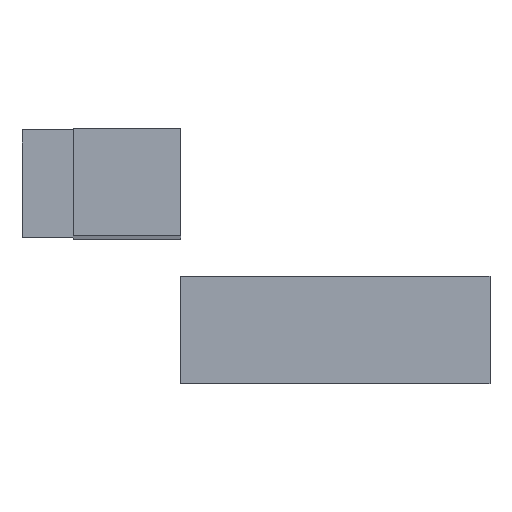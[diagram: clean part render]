
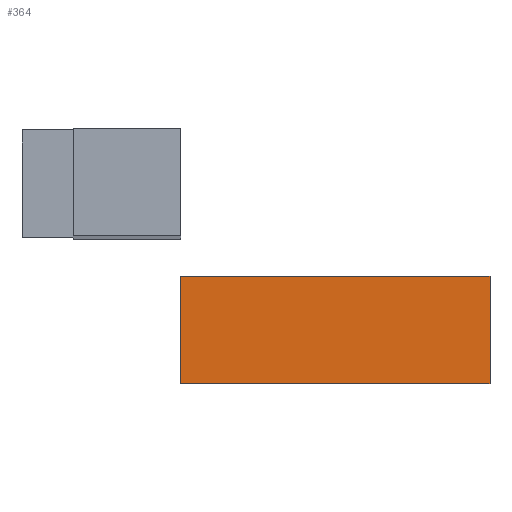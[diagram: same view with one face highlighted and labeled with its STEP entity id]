
A CAD part, top view. The second image highlights one B-rep face of the part: STEP entity #364.
In plain terms, the highlighted planar face has unit normal (0, 0, 1).
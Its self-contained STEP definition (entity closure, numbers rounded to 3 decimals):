
#50 = VERTEX_POINT('',#51);
#51 = CARTESIAN_POINT('',(-5.75,-2.,2.));
#58 = PLANE('',#59);
#59 = AXIS2_PLACEMENT_3D('',#60,#61,#62);
#60 = CARTESIAN_POINT('',(-5.75,-2.,-2.));
#61 = DIRECTION('',(1.,0.,-0.));
#62 = DIRECTION('',(0.,0.,1.));
#70 = PLANE('',#71);
#71 = AXIS2_PLACEMENT_3D('',#72,#73,#74);
#72 = CARTESIAN_POINT('',(-5.75,-2.,-2.));
#73 = DIRECTION('',(-0.,1.,0.));
#74 = DIRECTION('',(0.,0.,1.));
#111 = VERTEX_POINT('',#112);
#112 = CARTESIAN_POINT('',(-5.75,2.,2.));
#126 = PLANE('',#127);
#127 = AXIS2_PLACEMENT_3D('',#128,#129,#130);
#128 = CARTESIAN_POINT('',(-5.75,2.,-2.));
#129 = DIRECTION('',(-0.,1.,0.));
#130 = DIRECTION('',(0.,0.,1.));
#138 = EDGE_CURVE('',#50,#111,#139,.T.);
#139 = SURFACE_CURVE('',#140,(#144,#151),.PCURVE_S1.);
#140 = LINE('',#141,#142);
#141 = CARTESIAN_POINT('',(-5.75,-2.,2.));
#142 = VECTOR('',#143,1.);
#143 = DIRECTION('',(-0.,1.,0.));
#144 = PCURVE('',#58,#145);
#145 = DEFINITIONAL_REPRESENTATION('',(#146),#150);
#146 = LINE('',#147,#148);
#147 = CARTESIAN_POINT('',(4.,0.));
#148 = VECTOR('',#149,1.);
#149 = DIRECTION('',(0.,-1.));
#150 = ( GEOMETRIC_REPRESENTATION_CONTEXT(2) 
PARAMETRIC_REPRESENTATION_CONTEXT() REPRESENTATION_CONTEXT('2D SPACE',''
  ) );
#151 = PCURVE('',#152,#157);
#152 = PLANE('',#153);
#153 = AXIS2_PLACEMENT_3D('',#154,#155,#156);
#154 = CARTESIAN_POINT('',(-5.75,-2.,2.));
#155 = DIRECTION('',(0.,0.,1.));
#156 = DIRECTION('',(1.,0.,-0.));
#157 = DEFINITIONAL_REPRESENTATION('',(#158),#162);
#158 = LINE('',#159,#160);
#159 = CARTESIAN_POINT('',(0.,0.));
#160 = VECTOR('',#161,1.);
#161 = DIRECTION('',(0.,1.));
#162 = ( GEOMETRIC_REPRESENTATION_CONTEXT(2) 
PARAMETRIC_REPRESENTATION_CONTEXT() REPRESENTATION_CONTEXT('2D SPACE',''
  ) );
#170 = VERTEX_POINT('',#171);
#171 = CARTESIAN_POINT('',(5.75,-2.,2.));
#178 = PLANE('',#179);
#179 = AXIS2_PLACEMENT_3D('',#180,#181,#182);
#180 = CARTESIAN_POINT('',(5.75,-2.,-2.));
#181 = DIRECTION('',(1.,0.,-0.));
#182 = DIRECTION('',(0.,0.,1.));
#221 = VERTEX_POINT('',#222);
#222 = CARTESIAN_POINT('',(5.75,2.,2.));
#243 = EDGE_CURVE('',#170,#221,#244,.T.);
#244 = SURFACE_CURVE('',#245,(#249,#256),.PCURVE_S1.);
#245 = LINE('',#246,#247);
#246 = CARTESIAN_POINT('',(5.75,-2.,2.));
#247 = VECTOR('',#248,1.);
#248 = DIRECTION('',(-0.,1.,0.));
#249 = PCURVE('',#178,#250);
#250 = DEFINITIONAL_REPRESENTATION('',(#251),#255);
#251 = LINE('',#252,#253);
#252 = CARTESIAN_POINT('',(4.,0.));
#253 = VECTOR('',#254,1.);
#254 = DIRECTION('',(0.,-1.));
#255 = ( GEOMETRIC_REPRESENTATION_CONTEXT(2) 
PARAMETRIC_REPRESENTATION_CONTEXT() REPRESENTATION_CONTEXT('2D SPACE',''
  ) );
#256 = PCURVE('',#152,#257);
#257 = DEFINITIONAL_REPRESENTATION('',(#258),#262);
#258 = LINE('',#259,#260);
#259 = CARTESIAN_POINT('',(11.5,0.));
#260 = VECTOR('',#261,1.);
#261 = DIRECTION('',(0.,1.));
#262 = ( GEOMETRIC_REPRESENTATION_CONTEXT(2) 
PARAMETRIC_REPRESENTATION_CONTEXT() REPRESENTATION_CONTEXT('2D SPACE',''
  ) );
#289 = EDGE_CURVE('',#50,#170,#290,.T.);
#290 = SURFACE_CURVE('',#291,(#295,#302),.PCURVE_S1.);
#291 = LINE('',#292,#293);
#292 = CARTESIAN_POINT('',(-5.75,-2.,2.));
#293 = VECTOR('',#294,1.);
#294 = DIRECTION('',(1.,0.,-0.));
#295 = PCURVE('',#70,#296);
#296 = DEFINITIONAL_REPRESENTATION('',(#297),#301);
#297 = LINE('',#298,#299);
#298 = CARTESIAN_POINT('',(4.,0.));
#299 = VECTOR('',#300,1.);
#300 = DIRECTION('',(0.,1.));
#301 = ( GEOMETRIC_REPRESENTATION_CONTEXT(2) 
PARAMETRIC_REPRESENTATION_CONTEXT() REPRESENTATION_CONTEXT('2D SPACE',''
  ) );
#302 = PCURVE('',#152,#303);
#303 = DEFINITIONAL_REPRESENTATION('',(#304),#308);
#304 = LINE('',#305,#306);
#305 = CARTESIAN_POINT('',(0.,0.));
#306 = VECTOR('',#307,1.);
#307 = DIRECTION('',(1.,0.));
#308 = ( GEOMETRIC_REPRESENTATION_CONTEXT(2) 
PARAMETRIC_REPRESENTATION_CONTEXT() REPRESENTATION_CONTEXT('2D SPACE',''
  ) );
#336 = EDGE_CURVE('',#111,#221,#337,.T.);
#337 = SURFACE_CURVE('',#338,(#342,#349),.PCURVE_S1.);
#338 = LINE('',#339,#340);
#339 = CARTESIAN_POINT('',(-5.75,2.,2.));
#340 = VECTOR('',#341,1.);
#341 = DIRECTION('',(1.,0.,-0.));
#342 = PCURVE('',#126,#343);
#343 = DEFINITIONAL_REPRESENTATION('',(#344),#348);
#344 = LINE('',#345,#346);
#345 = CARTESIAN_POINT('',(4.,0.));
#346 = VECTOR('',#347,1.);
#347 = DIRECTION('',(0.,1.));
#348 = ( GEOMETRIC_REPRESENTATION_CONTEXT(2) 
PARAMETRIC_REPRESENTATION_CONTEXT() REPRESENTATION_CONTEXT('2D SPACE',''
  ) );
#349 = PCURVE('',#152,#350);
#350 = DEFINITIONAL_REPRESENTATION('',(#351),#355);
#351 = LINE('',#352,#353);
#352 = CARTESIAN_POINT('',(0.,4.));
#353 = VECTOR('',#354,1.);
#354 = DIRECTION('',(1.,0.));
#355 = ( GEOMETRIC_REPRESENTATION_CONTEXT(2) 
PARAMETRIC_REPRESENTATION_CONTEXT() REPRESENTATION_CONTEXT('2D SPACE',''
  ) );
#364 = ADVANCED_FACE('',(#365),#152,.T.);
#365 = FACE_BOUND('',#366,.T.);
#366 = EDGE_LOOP('',(#367,#368,#369,#370));
#367 = ORIENTED_EDGE('',*,*,#138,.F.);
#368 = ORIENTED_EDGE('',*,*,#289,.T.);
#369 = ORIENTED_EDGE('',*,*,#243,.T.);
#370 = ORIENTED_EDGE('',*,*,#336,.F.);
